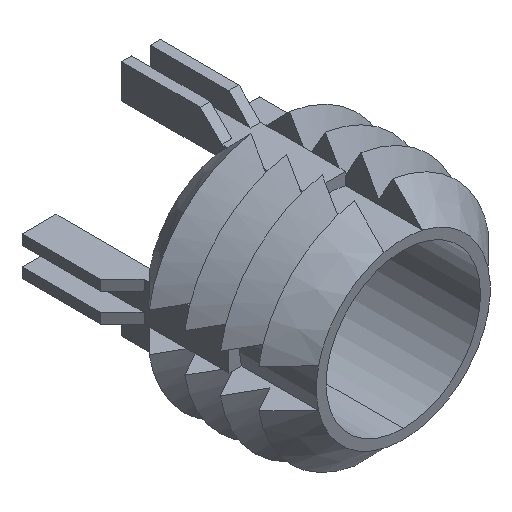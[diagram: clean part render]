
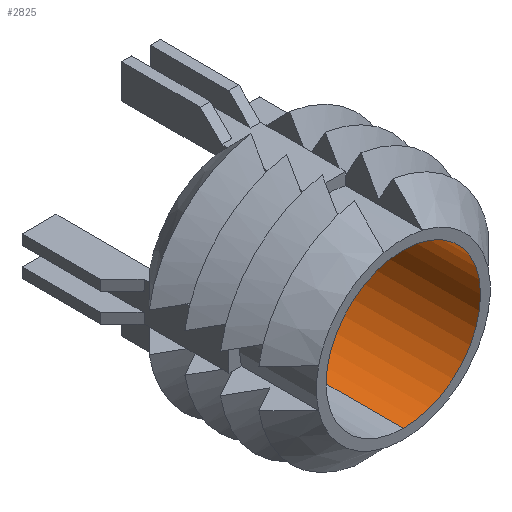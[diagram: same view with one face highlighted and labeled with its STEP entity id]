
A CAD part, isometric view. The second image highlights one B-rep face of the part: STEP entity #2825.
In plain terms, the highlighted cylindrical face has radius 5 mm (diameter 10 mm), a partial arc.
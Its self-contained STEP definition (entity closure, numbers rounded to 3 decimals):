
#21 = VERTEX_POINT ( 'NONE', #449 ) ;
#31 = ORIENTED_EDGE ( 'NONE', *, *, #2455, .T. ) ;
#40 = DIRECTION ( 'NONE',  ( 0., 1., 0. ) ) ;
#76 = VERTEX_POINT ( 'NONE', #557 ) ;
#77 = DIRECTION ( 'NONE',  ( 0., 0., 1. ) ) ;
#179 = DIRECTION ( 'NONE',  ( 0., 0., 1. ) ) ;
#449 = CARTESIAN_POINT ( 'NONE',  ( 0., 0., -5. ) ) ;
#507 = CARTESIAN_POINT ( 'NONE',  ( 0., -25.064, -5. ) ) ;
#529 = LINE ( 'NONE', #507, #3110 ) ;
#530 = CIRCLE ( 'NONE', #1800, 5. ) ;
#557 = CARTESIAN_POINT ( 'NONE',  ( 0., 0., 5. ) ) ;
#606 = CARTESIAN_POINT ( 'NONE',  ( 0., -10.922, -5. ) ) ;
#862 = DIRECTION ( 'NONE',  ( 0., 0., 1. ) ) ;
#881 = CYLINDRICAL_SURFACE ( 'NONE', #2929, 5. ) ;
#942 = EDGE_CURVE ( 'NONE', #1632, #21, #529, .T. ) ;
#990 = ORIENTED_EDGE ( 'NONE', *, *, #2910, .T. ) ;
#1191 = ORIENTED_EDGE ( 'NONE', *, *, #942, .F. ) ;
#1632 = VERTEX_POINT ( 'NONE', #606 ) ;
#1727 = AXIS2_PLACEMENT_3D ( 'NONE', #3453, #2307, #179 ) ;
#1779 = VERTEX_POINT ( 'NONE', #3197 ) ;
#1800 = AXIS2_PLACEMENT_3D ( 'NONE', #2746, #40, #77 ) ;
#1999 = EDGE_LOOP ( 'NONE', ( #1191, #2753, #31, #990 ) ) ;
#2111 = CIRCLE ( 'NONE', #1727, 5. ) ;
#2139 = FACE_OUTER_BOUND ( 'NONE', #1999, .T. ) ;
#2207 = LINE ( 'NONE', #3410, #3371 ) ;
#2307 = DIRECTION ( 'NONE',  ( 0., -1., 0. ) ) ;
#2455 = EDGE_CURVE ( 'NONE', #1779, #76, #2207, .T. ) ;
#2746 = CARTESIAN_POINT ( 'NONE',  ( 0., 0., 0. ) ) ;
#2753 = ORIENTED_EDGE ( 'NONE', *, *, #3106, .T. ) ;
#2813 = DIRECTION ( 'NONE',  ( 0., 1., 0. ) ) ;
#2825 = ADVANCED_FACE ( 'NONE', ( #2139 ), #881, .F. ) ;
#2910 = EDGE_CURVE ( 'NONE', #76, #21, #530, .T. ) ;
#2929 = AXIS2_PLACEMENT_3D ( 'NONE', #3882, #3335, #862 ) ;
#3106 = EDGE_CURVE ( 'NONE', #1632, #1779, #2111, .T. ) ;
#3110 = VECTOR ( 'NONE', #3213, 1000. ) ;
#3197 = CARTESIAN_POINT ( 'NONE',  ( 0., -10.922, 5. ) ) ;
#3213 = DIRECTION ( 'NONE',  ( 0., 1., 0. ) ) ;
#3335 = DIRECTION ( 'NONE',  ( 0., 1., 0. ) ) ;
#3371 = VECTOR ( 'NONE', #2813, 1000. ) ;
#3410 = CARTESIAN_POINT ( 'NONE',  ( 0., -25.064, 5. ) ) ;
#3453 = CARTESIAN_POINT ( 'NONE',  ( 0., -10.922, 0. ) ) ;
#3882 = CARTESIAN_POINT ( 'NONE',  ( 0., -25.064, 0. ) ) ;
